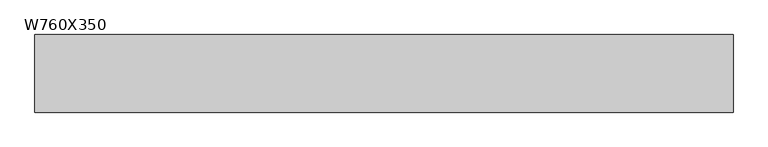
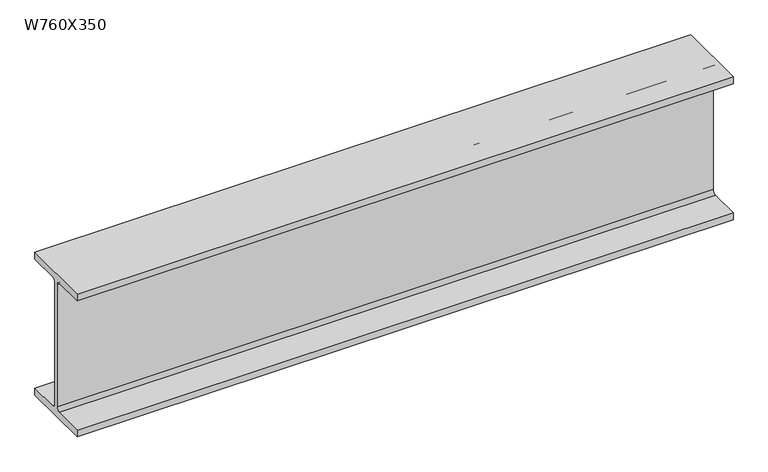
"""IFC4 building model written with IfcOpenShell, lengths in millimetres: beam geometry, M_W Shapes : W760X350."""

from ifc_helpers import new_model, si_unit, point, frame, frame_2d, origin, place, context, project, spatial, polyline, circle_curve, trimmed, segment, composite_curve, outline, extrude, source, transform, mapped, element, save


def w760x350_58736e79(model_context):
    return source(origin(), model_context, "Body", "SweptSolid", [
        extrude(outline(composite_curve([segment(polyline([(192.0, -359.4), (192.0, -397.5), (-192.0, -397.5), (-192.0, -359.4), (-30.65, -359.4)]), True, "CONTINUOUS"), segment(trimmed(circle_curve(frame_2d((-30.65, -339.3)), 20.1), [point((-30.65, -359.4))], [point((-10.55, -339.3))], True, "CARTESIAN"), True, "CONTINUOUS"), segment(polyline([(-10.55, -339.3), (-10.55, 339.3)]), True, "CONTINUOUS"), segment(trimmed(circle_curve(frame_2d((-30.65, 339.3)), 20.1), [point((-10.55, 339.3))], [point((-30.65, 359.4))], True, "CARTESIAN"), True, "CONTINUOUS"), segment(polyline([(-30.65, 359.4), (-192.0, 359.4), (-192.0, 397.5), (192.0, 397.5), (192.0, 359.4), (30.65, 359.4)]), True, "CONTINUOUS"), segment(trimmed(circle_curve(frame_2d((30.65, 339.3)), 20.1), [point((30.65, 359.4))], [point((10.55, 339.3))], True, "CARTESIAN"), True, "CONTINUOUS"), segment(polyline([(10.55, 339.3), (10.55, -339.3)]), True, "CONTINUOUS"), segment(trimmed(circle_curve(frame_2d((30.65, -339.3)), 20.1), [point((10.55, -339.3))], [point((30.65, -359.4))], True, "CARTESIAN"), True, "CONTINUOUS"), segment(polyline([(30.65, -359.4), (192.0, -359.4)]), True, "CONTINUOUS")], self_intersect=False)), frame((-1648.65, 0.0, 0.0), z_axis=(1.0, 0.0, 0.0), x_axis=(0.0, 1.0, 0.0)), (0.0, 0.0, 1.0), 3452.6),
    ])


if __name__ == "__main__":
    model = new_model("IFC4")
    model_context = context("Model", 3, world=origin())
    ifc_project = project(units=[si_unit("LENGTHUNIT", "METRE", prefix="MILLI")], contexts=[model_context])
    site = spatial("IfcSite", under=ifc_project)
    building = spatial("IfcBuilding", under=site)
    placement = place(None, origin())
    w760x350_shape = w760x350_58736e79(model_context)
    element("IfcBeam", 1, ObjectType="M_W Shapes : W760X350", at=placement, inside=building, context=model_context, shape_type="MappedRepresentation", body=[
        mapped(w760x350_shape, transform((0.0, 0.0, 0.0), x_axis=(1.0, 0.0, 0.0), y_axis=(0.0, 1.0, 0.0), z_axis=(0.0, 0.0, 1.0))),
    ])
    save(model, "model.ifc")
